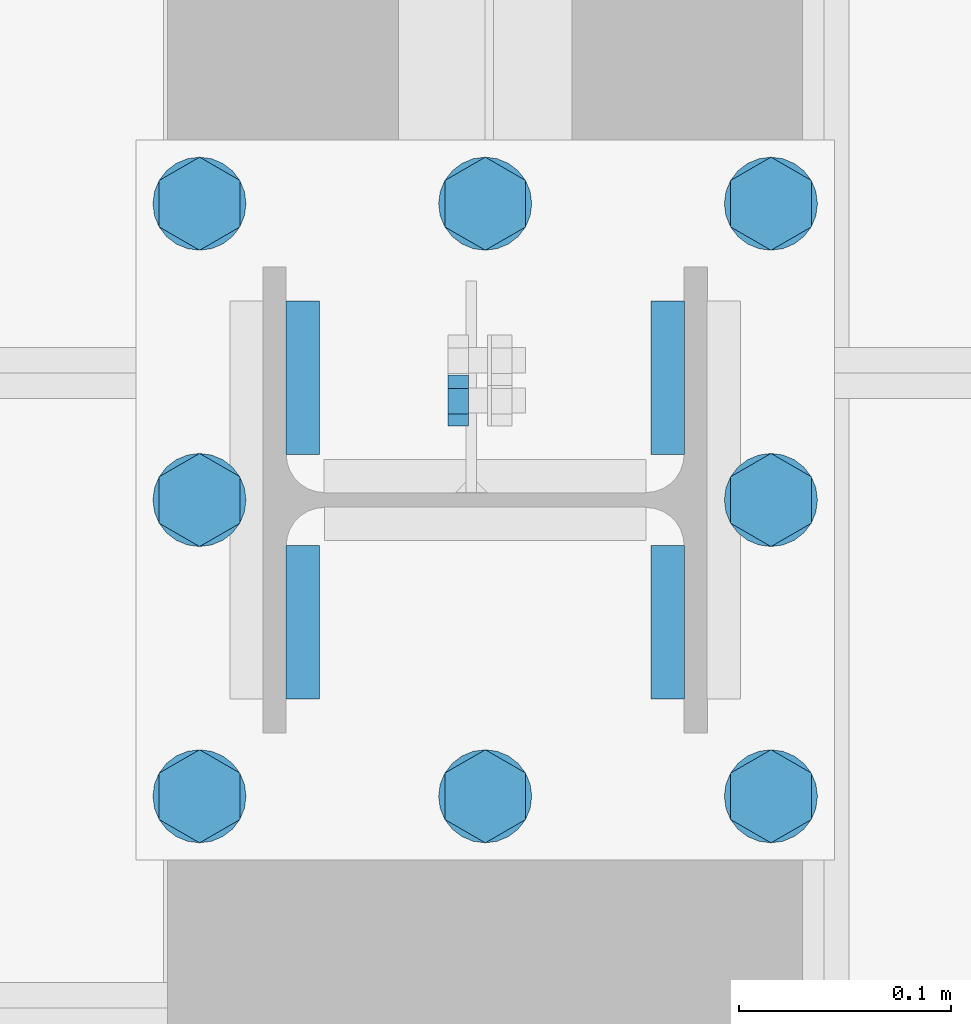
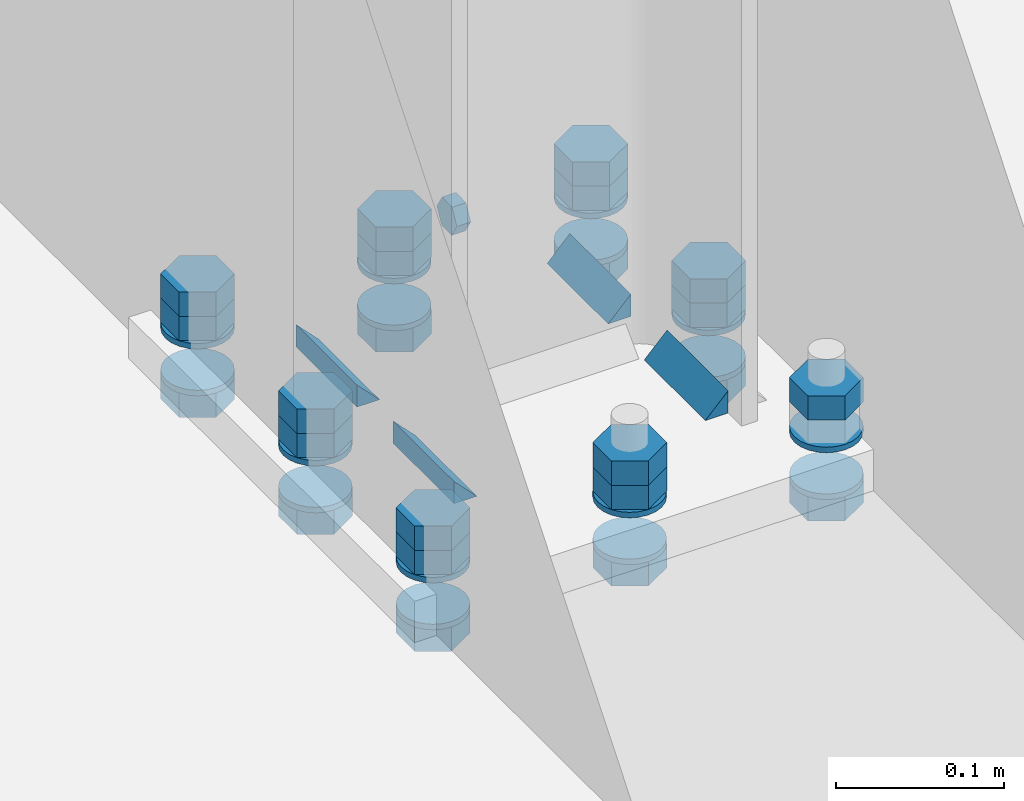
# One storey, part 25 of 29: 40 mechanical fasteners, 8 fasteners.
"""IFC4 building model written with IfcOpenShell, lengths in metres."""

from ifc_helpers import new_model, si_unit, frame, origin_with_axes, place, context, project, spatial, polyline, outline, extrude, type_object, element, save


model = new_model("IFC4")

# Units and contexts
model_context = context("Model", 3, precision=1e-05, world=origin_with_axes())
ifc_project = project(units=[si_unit("LENGTHUNIT", "METRE"), si_unit("AREAUNIT", "SQUARE_METRE"), si_unit("VOLUMEUNIT", "CUBIC_METRE"), si_unit("MASSUNIT", "GRAM", prefix="KILO"), si_unit("TIMEUNIT", "SECOND"), si_unit("PLANEANGLEUNIT", "RADIAN"), si_unit("SOLIDANGLEUNIT", "STERADIAN"), si_unit("THERMODYNAMICTEMPERATUREUNIT", "DEGREE_CELSIUS")], contexts=[model_context])

# Site, building, storey
placement_1 = place(None, origin_with_axes())
site = spatial("IfcSite", under=ifc_project, at=placement_1, Name="Italia", CompositionType="ELEMENT")
building = spatial("IfcBuilding", under=site, at=placement_1, Name="Capannone", CompositionType="ELEMENT")
storey = spatial("IfcBuildingStorey", under=building, at=placement_1, Name="Storey 0", CompositionType="ELEMENT", Elevation=0.0)

# Fasteners
fastener_type_1 = type_object("IfcFastenerType", Name="Collegamenti 0001_0101 0002_0102 0003_0103 0004_0104 0005_0105 0006_0106 0007_0107 0008_0108 0009_0109 0010_0110 0011_0111 0012_0112", PredefinedType="WELD")
placement_2 = place(placement_1, origin_with_axes())
fastener_1_placement = place(placement_2, origin_with_axes())
element("IfcFastener", 1, at=fastener_1_placement, inside=storey, type_object=fastener_type_1, Name="Collegamenti 0001_0101 0002_0102 0003_0103 0004_0104 0005_0105 0006_0106 0007_0107 0008_0108 0009_0109 0010_0110 0011_0111 0012_0112", context=model_context, shape_type="SweptSolid", body=[
    extrude(outline(polyline([(0.0, 0.0), (0.0156889, 0.0161734), (0.0156889, 0.0), (0.0, 0.0)])), frame((13.9216, 12.0215, 0.02995), z_axis=(0.0, 1.0, 0.0), x_axis=(-1.0, 0.0, 0.0)), (0.0, 0.0, 1.0), 0.0726004),
])
fastener_type_2 = type_object("IfcFastenerType", Name="Collegamenti 0001_0101 0002_0102 0003_0103 0004_0104 0005_0105 0006_0106 0007_0107 0008_0108 0009_0109 0010_0110 0011_0111 0012_0112", PredefinedType="WELD")
fastener_2_placement = place(placement_2, origin_with_axes())
element("IfcFastener", 2, at=fastener_2_placement, inside=storey, type_object=fastener_type_2, Name="Collegamenti 0001_0101 0002_0102 0003_0103 0004_0104 0005_0105 0006_0106 0007_0107 0008_0108 0009_0109 0010_0110 0011_0111 0012_0112", context=model_context, shape_type="SweptSolid", body=[
    extrude(outline(polyline([(0.0, 0.0), (0.0156889, 0.0161734), (0.0156889, 0.0), (0.0, 0.0)])), frame((14.0784, 12.0941, 0.02995), z_axis=(0.0, -1.0, 0.0), x_axis=(1.0, 0.0, 0.0)), (0.0, 0.0, 1.0), 0.0726004),
])
fastener_type_3 = type_object("IfcFastenerType", Name="Collegamenti 0001_0101 0002_0102 0003_0103 0004_0104 0005_0105 0006_0106 0007_0107 0008_0108 0009_0109 0010_0110 0011_0111 0012_0112", PredefinedType="WELD")
fastener_3_placement = place(placement_2, origin_with_axes())
element("IfcFastener", 3, at=fastener_3_placement, inside=storey, type_object=fastener_type_3, Name="Collegamenti 0001_0101 0002_0102 0003_0103 0004_0104 0005_0105 0006_0106 0007_0107 0008_0108 0009_0109 0010_0110 0011_0111 0012_0112", context=model_context, shape_type="SweptSolid", body=[
    extrude(outline(polyline([(0.0, 0.0), (0.0156889, 0.0161734), (0.0156889, 0.0), (0.0, 0.0)])), frame((14.0784, 11.9785, 0.02995), z_axis=(0.0, -1.0, 0.0), x_axis=(1.0, 0.0, 0.0)), (0.0, 0.0, 1.0), 0.0726004),
])
fastener_type_4 = type_object("IfcFastenerType", Name="Collegamenti 0001_0101 0002_0102 0003_0103 0004_0104 0005_0105 0006_0106 0007_0107 0008_0108 0009_0109 0010_0110 0011_0111 0012_0112", PredefinedType="WELD")
fastener_4_placement = place(placement_2, origin_with_axes())
element("IfcFastener", 4, at=fastener_4_placement, inside=storey, type_object=fastener_type_4, Name="Collegamenti 0001_0101 0002_0102 0003_0103 0004_0104 0005_0105 0006_0106 0007_0107 0008_0108 0009_0109 0010_0110 0011_0111 0012_0112", context=model_context, shape_type="SweptSolid", body=[
    extrude(outline(polyline([(0.0, 0.0), (0.0156889, 0.0161734), (0.0156889, 0.0), (0.0, 0.0)])), frame((13.9216, 11.9059, 0.02995), z_axis=(0.0, 1.0, 0.0), x_axis=(-1.0, 0.0, 0.0)), (0.0, 0.0, 1.0), 0.0726004),
])
fastener_type_5 = type_object("IfcFastenerType", Name="Collegamenti 0001_0101 0002_0102 0003_0103 0004_0104 0005_0105 0006_0106 0007_0107 0008_0108 0009_0109 0010_0110 0011_0111 0012_0112", PredefinedType="WELD")
fastener_5_placement = place(placement_2, origin_with_axes())
element("IfcFastener", 5, at=fastener_5_placement, inside=storey, type_object=fastener_type_5, Name="Collegamenti 0001_0101 0002_0102 0003_0103 0004_0104 0005_0105 0006_0106 0007_0107 0008_0108 0009_0109 0010_0110 0011_0111 0012_0112", context=model_context, shape_type="SweptSolid", body=[
    extrude(outline(polyline([(0.0, 0.0), (0.0156889, 0.0161734), (0.0156889, 0.0), (0.0, 0.0)])), frame((13.9216, 12.0215, 0.02995), z_axis=(0.0, 1.0, 0.0), x_axis=(-1.0, 0.0, 0.0)), (0.0, 0.0, 1.0), 0.0726004),
])
fastener_type_6 = type_object("IfcFastenerType", Name="Collegamenti 0001_0101 0002_0102 0003_0103 0004_0104 0005_0105 0006_0106 0007_0107 0008_0108 0009_0109 0010_0110 0011_0111 0012_0112", PredefinedType="WELD")
fastener_6_placement = place(placement_2, origin_with_axes())
element("IfcFastener", 6, at=fastener_6_placement, inside=storey, type_object=fastener_type_6, Name="Collegamenti 0001_0101 0002_0102 0003_0103 0004_0104 0005_0105 0006_0106 0007_0107 0008_0108 0009_0109 0010_0110 0011_0111 0012_0112", context=model_context, shape_type="SweptSolid", body=[
    extrude(outline(polyline([(0.0, 0.0), (0.0156889, 0.0161734), (0.0156889, 0.0), (0.0, 0.0)])), frame((14.0784, 12.0941, 0.02995), z_axis=(0.0, -1.0, 0.0), x_axis=(1.0, 0.0, 0.0)), (0.0, 0.0, 1.0), 0.0726004),
])
fastener_type_7 = type_object("IfcFastenerType", Name="Collegamenti 0001_0101 0002_0102 0003_0103 0004_0104 0005_0105 0006_0106 0007_0107 0008_0108 0009_0109 0010_0110 0011_0111 0012_0112", PredefinedType="WELD")
fastener_7_placement = place(placement_2, origin_with_axes())
element("IfcFastener", 7, at=fastener_7_placement, inside=storey, type_object=fastener_type_7, Name="Collegamenti 0001_0101 0002_0102 0003_0103 0004_0104 0005_0105 0006_0106 0007_0107 0008_0108 0009_0109 0010_0110 0011_0111 0012_0112", context=model_context, shape_type="SweptSolid", body=[
    extrude(outline(polyline([(0.0, 0.0), (0.0156889, 0.0161734), (0.0156889, 0.0), (0.0, 0.0)])), frame((14.0784, 11.9785, 0.02995), z_axis=(0.0, -1.0, 0.0), x_axis=(1.0, 0.0, 0.0)), (0.0, 0.0, 1.0), 0.0726004),
])
fastener_type_8 = type_object("IfcFastenerType", Name="Collegamenti 0001_0101 0002_0102 0003_0103 0004_0104 0005_0105 0006_0106 0007_0107 0008_0108 0009_0109 0010_0110 0011_0111 0012_0112", PredefinedType="WELD")
fastener_8_placement = place(placement_2, origin_with_axes())
element("IfcFastener", 8, at=fastener_8_placement, inside=storey, type_object=fastener_type_8, Name="Collegamenti 0001_0101 0002_0102 0003_0103 0004_0104 0005_0105 0006_0106 0007_0107 0008_0108 0009_0109 0010_0110 0011_0111 0012_0112", context=model_context, shape_type="SweptSolid", body=[
    extrude(outline(polyline([(0.0, 0.0), (0.0156889, 0.0161734), (0.0156889, 0.0), (0.0, 0.0)])), frame((13.9216, 11.9059, 0.02995), z_axis=(0.0, 1.0, 0.0), x_axis=(-1.0, 0.0, 0.0)), (0.0, 0.0, 1.0), 0.0726004),
])

# Mechanical fasteners
mechanical_fastener_type_1 = type_object("IfcMechanicalFastenerType", Name="Collegamenti 0001_0101 0002_0102 0003_0103 0004_0104 0005_0105 0006_0106 0007_0107 0008_0108 0009_0109 0010_0110 0011_0111 0012_0112", PredefinedType="BOLT")
mechanical_fastener_1_placement = place(placement_2, origin_with_axes())
element("IfcMechanicalFastener", 9, at=mechanical_fastener_1_placement, inside=storey, type_object=mechanical_fastener_type_1, Name="Collegamenti 0001_0101 0002_0102 0003_0103 0004_0104 0005_0105 0006_0106 0007_0107 0008_0108 0009_0109 0010_0110 0011_0111 0012_0112", NominalDiameter=0.0219998, context=model_context, shape_type="SweptSolid", body=[
    extrude(outline(polyline([(0.0, 0.0), (-0.0220003, 0.0), (-0.033, 0.0190525), (-0.0220003, 0.038105), (0.0, 0.038105), (0.0109997, 0.0190525), (0.0, 0.0)])), frame((14.1541, 11.871, 0.0516), z_axis=(0.0, 0.0, 1.0), x_axis=(0.0, 1.0, 0.0)), (0.0, 0.0, 1.0), 0.0176),
])
mechanical_fastener_type_2 = type_object("IfcMechanicalFastenerType", Name="Collegamenti 0001_0101 0002_0102 0003_0103 0004_0104 0005_0105 0006_0106 0007_0107 0008_0108 0009_0109 0010_0110 0011_0111 0012_0112", PredefinedType="BOLT")
mechanical_fastener_2_placement = place(placement_2, origin_with_axes())
element("IfcMechanicalFastener", 10, at=mechanical_fastener_2_placement, inside=storey, type_object=mechanical_fastener_type_2, Name="Collegamenti 0001_0101 0002_0102 0003_0103 0004_0104 0005_0105 0006_0106 0007_0107 0008_0108 0009_0109 0010_0110 0011_0111 0012_0112", NominalDiameter=0.0219998, context=model_context, shape_type="SweptSolid", body=[
    extrude(outline(polyline([(0.0, 0.0), (-0.0220003, 0.0), (-0.033, 0.0190525), (-0.0220003, 0.038105), (0.0, 0.038105), (0.0109997, 0.0190525), (0.0, 0.0)])), frame((14.1541, 11.871, -0.0216), z_axis=(0.0, 0.0, 1.0), x_axis=(0.0, 1.0, 0.0)), (0.0, 0.0, 1.0), 0.0176),
])
mechanical_fastener_type_3 = type_object("IfcMechanicalFastenerType", Name="Collegamenti 0001_0101 0002_0102 0003_0103 0004_0104 0005_0105 0006_0106 0007_0107 0008_0108 0009_0109 0010_0110 0011_0111 0012_0112", PredefinedType="BOLT")
mechanical_fastener_3_placement = place(placement_2, origin_with_axes())
element("IfcMechanicalFastener", 11, at=mechanical_fastener_3_placement, inside=storey, type_object=mechanical_fastener_type_3, Name="Collegamenti 0001_0101 0002_0102 0003_0103 0004_0104 0005_0105 0006_0106 0007_0107 0008_0108 0009_0109 0010_0110 0011_0111 0012_0112", NominalDiameter=0.044, context=model_context, shape_type="SweptSolid", body=[
    extrude(outline(polyline([(0.0, 0.0), (-0.000749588, -0.00569439), (-0.00294781, -0.0109997), (-0.00644398, -0.0155563), (-0.0110006, -0.0190525), (-0.0163059, -0.0212507), (-0.0220003, -0.0220003), (-0.0276947, -0.0212507), (-0.033, -0.0190525), (-0.0375566, -0.0155563), (-0.0410528, -0.0109997), (-0.043251, -0.00569439), (-0.0440006, 0.0), (-0.043251, 0.00569439), (-0.0410528, 0.0109997), (-0.0375566, 0.0155563), (-0.033, 0.0190525), (-0.0276947, 0.0212507), (-0.0220003, 0.0220003), (-0.0163059, 0.0212507), (-0.0110006, 0.0190525), (-0.00644398, 0.0155563), (-0.00294781, 0.0109997), (-0.000749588, 0.00569439), (0.0, 0.0)])), frame((14.135, 11.882, 0.03), z_axis=(0.0, 0.0, 1.0), x_axis=(0.0, 1.0, 0.0)), (0.0, 0.0, 1.0), 0.004),
])
mechanical_fastener_type_4 = type_object("IfcMechanicalFastenerType", Name="Collegamenti 0001_0101 0002_0102 0003_0103 0004_0104 0005_0105 0006_0106 0007_0107 0008_0108 0009_0109 0010_0110 0011_0111 0012_0112", PredefinedType="BOLT")
mechanical_fastener_4_placement = place(placement_2, origin_with_axes())
element("IfcMechanicalFastener", 12, at=mechanical_fastener_4_placement, inside=storey, type_object=mechanical_fastener_type_4, Name="Collegamenti 0001_0101 0002_0102 0003_0103 0004_0104 0005_0105 0006_0106 0007_0107 0008_0108 0009_0109 0010_0110 0011_0111 0012_0112", NominalDiameter=0.044, context=model_context, shape_type="SweptSolid", body=[
    extrude(outline(polyline([(0.0, 0.0), (-0.000749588, -0.00569439), (-0.00294781, -0.0109997), (-0.00644398, -0.0155563), (-0.0110006, -0.0190525), (-0.0163059, -0.0212507), (-0.0220003, -0.0220003), (-0.0276947, -0.0212507), (-0.033, -0.0190525), (-0.0375566, -0.0155563), (-0.0410528, -0.0109997), (-0.043251, -0.00569439), (-0.0440006, 0.0), (-0.043251, 0.00569439), (-0.0410528, 0.0109997), (-0.0375566, 0.0155563), (-0.033, 0.0190525), (-0.0276947, 0.0212507), (-0.0220003, 0.0220003), (-0.0163059, 0.0212507), (-0.0110006, 0.0190525), (-0.00644398, 0.0155563), (-0.00294781, 0.0109997), (-0.000749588, 0.00569439), (0.0, 0.0)])), frame((14.135, 11.882, -0.004), z_axis=(0.0, 0.0, 1.0), x_axis=(0.0, 1.0, 0.0)), (0.0, 0.0, 1.0), 0.004),
])
mechanical_fastener_type_5 = type_object("IfcMechanicalFastenerType", Name="Collegamenti 0001_0101 0002_0102 0003_0103 0004_0104 0005_0105 0006_0106 0007_0107 0008_0108 0009_0109 0010_0110 0011_0111 0012_0112", PredefinedType="BOLT")
mechanical_fastener_5_placement = place(placement_2, origin_with_axes())
element("IfcMechanicalFastener", 13, at=mechanical_fastener_5_placement, inside=storey, type_object=mechanical_fastener_type_5, Name="Collegamenti 0001_0101 0002_0102 0003_0103 0004_0104 0005_0105 0006_0106 0007_0107 0008_0108 0009_0109 0010_0110 0011_0111 0012_0112", NominalDiameter=0.0219994, context=model_context, shape_type="SweptSolid", body=[
    extrude(outline(polyline([(0.0, 0.0), (-0.0219994, 0.0), (-0.033, 0.0190525), (-0.0219994, 0.038105), (0.0, 0.038105), (0.0110006, 0.0190525), (0.0, 0.0)])), frame((14.1541, 12.011, 0.034), z_axis=(0.0, 0.0, 1.0), x_axis=(0.0, 1.0, 0.0)), (0.0, 0.0, 1.0), 0.0176),
])
mechanical_fastener_type_6 = type_object("IfcMechanicalFastenerType", Name="Collegamenti 0001_0101 0002_0102 0003_0103 0004_0104 0005_0105 0006_0106 0007_0107 0008_0108 0009_0109 0010_0110 0011_0111 0012_0112", PredefinedType="BOLT")
mechanical_fastener_6_placement = place(placement_2, origin_with_axes())
element("IfcMechanicalFastener", 14, at=mechanical_fastener_6_placement, inside=storey, type_object=mechanical_fastener_type_6, Name="Collegamenti 0001_0101 0002_0102 0003_0103 0004_0104 0005_0105 0006_0106 0007_0107 0008_0108 0009_0109 0010_0110 0011_0111 0012_0112", NominalDiameter=0.0219994, context=model_context, shape_type="SweptSolid", body=[
    extrude(outline(polyline([(0.0, 0.0), (-0.0219994, 0.0), (-0.033, 0.0190525), (-0.0219994, 0.038105), (0.0, 0.038105), (0.0110006, 0.0190525), (0.0, 0.0)])), frame((14.1541, 12.011, 0.0516), z_axis=(0.0, 0.0, 1.0), x_axis=(0.0, 1.0, 0.0)), (0.0, 0.0, 1.0), 0.0176),
])
mechanical_fastener_type_7 = type_object("IfcMechanicalFastenerType", Name="Collegamenti 0001_0101 0002_0102 0003_0103 0004_0104 0005_0105 0006_0106 0007_0107 0008_0108 0009_0109 0010_0110 0011_0111 0012_0112", PredefinedType="BOLT")
mechanical_fastener_7_placement = place(placement_2, origin_with_axes())
element("IfcMechanicalFastener", 15, at=mechanical_fastener_7_placement, inside=storey, type_object=mechanical_fastener_type_7, Name="Collegamenti 0001_0101 0002_0102 0003_0103 0004_0104 0005_0105 0006_0106 0007_0107 0008_0108 0009_0109 0010_0110 0011_0111 0012_0112", NominalDiameter=0.0219994, context=model_context, shape_type="SweptSolid", body=[
    extrude(outline(polyline([(0.0, 0.0), (-0.0219994, 0.0), (-0.033, 0.0190525), (-0.0219994, 0.038105), (0.0, 0.038105), (0.0110006, 0.0190525), (0.0, 0.0)])), frame((14.1541, 12.011, -0.0216), z_axis=(0.0, 0.0, 1.0), x_axis=(0.0, 1.0, 0.0)), (0.0, 0.0, 1.0), 0.0176),
])
mechanical_fastener_type_8 = type_object("IfcMechanicalFastenerType", Name="Collegamenti 0001_0101 0002_0102 0003_0103 0004_0104 0005_0105 0006_0106 0007_0107 0008_0108 0009_0109 0010_0110 0011_0111 0012_0112", PredefinedType="BOLT")
mechanical_fastener_8_placement = place(placement_2, origin_with_axes())
element("IfcMechanicalFastener", 16, at=mechanical_fastener_8_placement, inside=storey, type_object=mechanical_fastener_type_8, Name="Collegamenti 0001_0101 0002_0102 0003_0103 0004_0104 0005_0105 0006_0106 0007_0107 0008_0108 0009_0109 0010_0110 0011_0111 0012_0112", NominalDiameter=0.044, context=model_context, shape_type="SweptSolid", body=[
    extrude(outline(polyline([(0.0, 0.0), (-0.000749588, -0.00569439), (-0.00294781, -0.0109997), (-0.00644398, -0.0155563), (-0.0110006, -0.0190525), (-0.0163059, -0.0212507), (-0.0220003, -0.0220003), (-0.0276947, -0.0212507), (-0.033, -0.0190525), (-0.0375566, -0.0155563), (-0.0410528, -0.0109997), (-0.043251, -0.00569439), (-0.0440006, 0.0), (-0.043251, 0.00569439), (-0.0410528, 0.0109997), (-0.0375566, 0.0155563), (-0.033, 0.0190525), (-0.0276947, 0.0212507), (-0.0220003, 0.0220003), (-0.0163059, 0.0212507), (-0.0110006, 0.0190525), (-0.00644398, 0.0155563), (-0.00294781, 0.0109997), (-0.000749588, 0.00569439), (0.0, 0.0)])), frame((14.135, 12.022, 0.03), z_axis=(0.0, 0.0, 1.0), x_axis=(0.0, 1.0, 0.0)), (0.0, 0.0, 1.0), 0.004),
])
mechanical_fastener_type_9 = type_object("IfcMechanicalFastenerType", Name="Collegamenti 0001_0101 0002_0102 0003_0103 0004_0104 0005_0105 0006_0106 0007_0107 0008_0108 0009_0109 0010_0110 0011_0111 0012_0112", PredefinedType="BOLT")
mechanical_fastener_9_placement = place(placement_2, origin_with_axes())
element("IfcMechanicalFastener", 17, at=mechanical_fastener_9_placement, inside=storey, type_object=mechanical_fastener_type_9, Name="Collegamenti 0001_0101 0002_0102 0003_0103 0004_0104 0005_0105 0006_0106 0007_0107 0008_0108 0009_0109 0010_0110 0011_0111 0012_0112", NominalDiameter=0.044, context=model_context, shape_type="SweptSolid", body=[
    extrude(outline(polyline([(0.0, 0.0), (-0.000749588, -0.00569439), (-0.00294781, -0.0109997), (-0.00644398, -0.0155563), (-0.0110006, -0.0190525), (-0.0163059, -0.0212507), (-0.0220003, -0.0220003), (-0.0276947, -0.0212507), (-0.033, -0.0190525), (-0.0375566, -0.0155563), (-0.0410528, -0.0109997), (-0.043251, -0.00569439), (-0.0440006, 0.0), (-0.043251, 0.00569439), (-0.0410528, 0.0109997), (-0.0375566, 0.0155563), (-0.033, 0.0190525), (-0.0276947, 0.0212507), (-0.0220003, 0.0220003), (-0.0163059, 0.0212507), (-0.0110006, 0.0190525), (-0.00644398, 0.0155563), (-0.00294781, 0.0109997), (-0.000749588, 0.00569439), (0.0, 0.0)])), frame((14.135, 12.022, -0.004), z_axis=(0.0, 0.0, 1.0), x_axis=(0.0, 1.0, 0.0)), (0.0, 0.0, 1.0), 0.004),
])
mechanical_fastener_type_10 = type_object("IfcMechanicalFastenerType", Name="Collegamenti 0001_0101 0002_0102 0003_0103 0004_0104 0005_0105 0006_0106 0007_0107 0008_0108 0009_0109 0010_0110 0011_0111 0012_0112", PredefinedType="BOLT")
mechanical_fastener_10_placement = place(placement_2, origin_with_axes())
element("IfcMechanicalFastener", 18, at=mechanical_fastener_10_placement, inside=storey, type_object=mechanical_fastener_type_10, Name="Collegamenti 0001_0101 0002_0102 0003_0103 0004_0104 0005_0105 0006_0106 0007_0107 0008_0108 0009_0109 0010_0110 0011_0111 0012_0112", NominalDiameter=0.0219998, context=model_context, shape_type="SweptSolid", body=[
    extrude(outline(polyline([(0.0, 0.0), (-0.0220003, 0.0), (-0.033, 0.0190525), (-0.0220003, 0.038105), (0.0, 0.038105), (0.0109997, 0.0190525), (0.0, 0.0)])), frame((14.1541, 12.151, 0.034), z_axis=(0.0, 0.0, 1.0), x_axis=(0.0, 1.0, 0.0)), (0.0, 0.0, 1.0), 0.0176),
])
mechanical_fastener_type_11 = type_object("IfcMechanicalFastenerType", Name="Collegamenti 0001_0101 0002_0102 0003_0103 0004_0104 0005_0105 0006_0106 0007_0107 0008_0108 0009_0109 0010_0110 0011_0111 0012_0112", PredefinedType="BOLT")
mechanical_fastener_11_placement = place(placement_2, origin_with_axes())
element("IfcMechanicalFastener", 19, at=mechanical_fastener_11_placement, inside=storey, type_object=mechanical_fastener_type_11, Name="Collegamenti 0001_0101 0002_0102 0003_0103 0004_0104 0005_0105 0006_0106 0007_0107 0008_0108 0009_0109 0010_0110 0011_0111 0012_0112", NominalDiameter=0.0219998, context=model_context, shape_type="SweptSolid", body=[
    extrude(outline(polyline([(0.0, 0.0), (-0.0220003, 0.0), (-0.033, 0.0190525), (-0.0220003, 0.038105), (0.0, 0.038105), (0.0109997, 0.0190525), (0.0, 0.0)])), frame((14.1541, 12.151, 0.0516), z_axis=(0.0, 0.0, 1.0), x_axis=(0.0, 1.0, 0.0)), (0.0, 0.0, 1.0), 0.0176),
])
mechanical_fastener_type_12 = type_object("IfcMechanicalFastenerType", Name="Collegamenti 0001_0101 0002_0102 0003_0103 0004_0104 0005_0105 0006_0106 0007_0107 0008_0108 0009_0109 0010_0110 0011_0111 0012_0112", PredefinedType="BOLT")
mechanical_fastener_12_placement = place(placement_2, origin_with_axes())
element("IfcMechanicalFastener", 20, at=mechanical_fastener_12_placement, inside=storey, type_object=mechanical_fastener_type_12, Name="Collegamenti 0001_0101 0002_0102 0003_0103 0004_0104 0005_0105 0006_0106 0007_0107 0008_0108 0009_0109 0010_0110 0011_0111 0012_0112", NominalDiameter=0.0219998, context=model_context, shape_type="SweptSolid", body=[
    extrude(outline(polyline([(0.0, 0.0), (-0.0220003, 0.0), (-0.033, 0.0190525), (-0.0220003, 0.038105), (0.0, 0.038105), (0.0109997, 0.0190525), (0.0, 0.0)])), frame((14.1541, 12.151, -0.0216), z_axis=(0.0, 0.0, 1.0), x_axis=(0.0, 1.0, 0.0)), (0.0, 0.0, 1.0), 0.0176),
])
mechanical_fastener_type_13 = type_object("IfcMechanicalFastenerType", Name="Collegamenti 0001_0101 0002_0102 0003_0103 0004_0104 0005_0105 0006_0106 0007_0107 0008_0108 0009_0109 0010_0110 0011_0111 0012_0112", PredefinedType="BOLT")
mechanical_fastener_13_placement = place(placement_2, origin_with_axes())
element("IfcMechanicalFastener", 21, at=mechanical_fastener_13_placement, inside=storey, type_object=mechanical_fastener_type_13, Name="Collegamenti 0001_0101 0002_0102 0003_0103 0004_0104 0005_0105 0006_0106 0007_0107 0008_0108 0009_0109 0010_0110 0011_0111 0012_0112", NominalDiameter=0.044, context=model_context, shape_type="SweptSolid", body=[
    extrude(outline(polyline([(0.0, 0.0), (-0.000749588, -0.00569439), (-0.00294781, -0.0109997), (-0.00644398, -0.0155563), (-0.0110006, -0.0190525), (-0.0163059, -0.0212507), (-0.0220003, -0.0220003), (-0.0276947, -0.0212507), (-0.033, -0.0190525), (-0.0375566, -0.0155563), (-0.0410528, -0.0109997), (-0.043251, -0.00569439), (-0.0440006, 0.0), (-0.043251, 0.00569439), (-0.0410528, 0.0109997), (-0.0375566, 0.0155563), (-0.033, 0.0190525), (-0.0276947, 0.0212507), (-0.0220003, 0.0220003), (-0.0163059, 0.0212507), (-0.0110006, 0.0190525), (-0.00644398, 0.0155563), (-0.00294781, 0.0109997), (-0.000749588, 0.00569439), (0.0, 0.0)])), frame((14.135, 12.162, 0.03), z_axis=(0.0, 0.0, 1.0), x_axis=(0.0, 1.0, 0.0)), (0.0, 0.0, 1.0), 0.004),
])
mechanical_fastener_type_14 = type_object("IfcMechanicalFastenerType", Name="Collegamenti 0001_0101 0002_0102 0003_0103 0004_0104 0005_0105 0006_0106 0007_0107 0008_0108 0009_0109 0010_0110 0011_0111 0012_0112", PredefinedType="BOLT")
mechanical_fastener_14_placement = place(placement_2, origin_with_axes())
element("IfcMechanicalFastener", 22, at=mechanical_fastener_14_placement, inside=storey, type_object=mechanical_fastener_type_14, Name="Collegamenti 0001_0101 0002_0102 0003_0103 0004_0104 0005_0105 0006_0106 0007_0107 0008_0108 0009_0109 0010_0110 0011_0111 0012_0112", NominalDiameter=0.044, context=model_context, shape_type="SweptSolid", body=[
    extrude(outline(polyline([(0.0, 0.0), (-0.000749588, -0.00569439), (-0.00294781, -0.0109997), (-0.00644398, -0.0155563), (-0.0110006, -0.0190525), (-0.0163059, -0.0212507), (-0.0220003, -0.0220003), (-0.0276947, -0.0212507), (-0.033, -0.0190525), (-0.0375566, -0.0155563), (-0.0410528, -0.0109997), (-0.043251, -0.00569439), (-0.0440006, 0.0), (-0.043251, 0.00569439), (-0.0410528, 0.0109997), (-0.0375566, 0.0155563), (-0.033, 0.0190525), (-0.0276947, 0.0212507), (-0.0220003, 0.0220003), (-0.0163059, 0.0212507), (-0.0110006, 0.0190525), (-0.00644398, 0.0155563), (-0.00294781, 0.0109997), (-0.000749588, 0.00569439), (0.0, 0.0)])), frame((14.135, 12.162, -0.004), z_axis=(0.0, 0.0, 1.0), x_axis=(0.0, 1.0, 0.0)), (0.0, 0.0, 1.0), 0.004),
])
mechanical_fastener_type_15 = type_object("IfcMechanicalFastenerType", Name="Collegamenti 0001_0101 0002_0102 0003_0103 0004_0104 0005_0105 0006_0106 0007_0107 0008_0108 0009_0109 0010_0110 0011_0111 0012_0112", PredefinedType="BOLT")
mechanical_fastener_15_placement = place(placement_2, origin_with_axes())
element("IfcMechanicalFastener", 23, at=mechanical_fastener_15_placement, inside=storey, type_object=mechanical_fastener_type_15, Name="Collegamenti 0001_0101 0002_0102 0003_0103 0004_0104 0005_0105 0006_0106 0007_0107 0008_0108 0009_0109 0010_0110 0011_0111 0012_0112", NominalDiameter=0.0219998, context=model_context, shape_type="SweptSolid", body=[
    extrude(outline(polyline([(0.0, 0.0), (-0.0220003, 0.0), (-0.033, 0.0190525), (-0.0220003, 0.038105), (0.0, 0.038105), (0.0109997, 0.0190525), (0.0, 0.0)])), frame((14.0191, 11.871, 0.034), z_axis=(0.0, 0.0, 1.0), x_axis=(0.0, 1.0, 0.0)), (0.0, 0.0, 1.0), 0.0176),
])
mechanical_fastener_type_16 = type_object("IfcMechanicalFastenerType", Name="Collegamenti 0001_0101 0002_0102 0003_0103 0004_0104 0005_0105 0006_0106 0007_0107 0008_0108 0009_0109 0010_0110 0011_0111 0012_0112", PredefinedType="BOLT")
mechanical_fastener_16_placement = place(placement_2, origin_with_axes())
element("IfcMechanicalFastener", 24, at=mechanical_fastener_16_placement, inside=storey, type_object=mechanical_fastener_type_16, Name="Collegamenti 0001_0101 0002_0102 0003_0103 0004_0104 0005_0105 0006_0106 0007_0107 0008_0108 0009_0109 0010_0110 0011_0111 0012_0112", NominalDiameter=0.0219998, context=model_context, shape_type="SweptSolid", body=[
    extrude(outline(polyline([(0.0, 0.0), (-0.0220003, 0.0), (-0.033, 0.0190525), (-0.0220003, 0.038105), (0.0, 0.038105), (0.0109997, 0.0190525), (0.0, 0.0)])), frame((14.0191, 11.871, 0.0516), z_axis=(0.0, 0.0, 1.0), x_axis=(0.0, 1.0, 0.0)), (0.0, 0.0, 1.0), 0.0176),
])
mechanical_fastener_type_17 = type_object("IfcMechanicalFastenerType", Name="Collegamenti 0001_0101 0002_0102 0003_0103 0004_0104 0005_0105 0006_0106 0007_0107 0008_0108 0009_0109 0010_0110 0011_0111 0012_0112", PredefinedType="BOLT")
mechanical_fastener_17_placement = place(placement_2, origin_with_axes())
element("IfcMechanicalFastener", 25, at=mechanical_fastener_17_placement, inside=storey, type_object=mechanical_fastener_type_17, Name="Collegamenti 0001_0101 0002_0102 0003_0103 0004_0104 0005_0105 0006_0106 0007_0107 0008_0108 0009_0109 0010_0110 0011_0111 0012_0112", NominalDiameter=0.0219998, context=model_context, shape_type="SweptSolid", body=[
    extrude(outline(polyline([(0.0, 0.0), (-0.0220003, 0.0), (-0.033, 0.0190525), (-0.0220003, 0.038105), (0.0, 0.038105), (0.0109997, 0.0190525), (0.0, 0.0)])), frame((14.0191, 11.871, -0.0216), z_axis=(0.0, 0.0, 1.0), x_axis=(0.0, 1.0, 0.0)), (0.0, 0.0, 1.0), 0.0176),
])
mechanical_fastener_type_18 = type_object("IfcMechanicalFastenerType", Name="Collegamenti 0001_0101 0002_0102 0003_0103 0004_0104 0005_0105 0006_0106 0007_0107 0008_0108 0009_0109 0010_0110 0011_0111 0012_0112", PredefinedType="BOLT")
mechanical_fastener_18_placement = place(placement_2, origin_with_axes())
element("IfcMechanicalFastener", 26, at=mechanical_fastener_18_placement, inside=storey, type_object=mechanical_fastener_type_18, Name="Collegamenti 0001_0101 0002_0102 0003_0103 0004_0104 0005_0105 0006_0106 0007_0107 0008_0108 0009_0109 0010_0110 0011_0111 0012_0112", NominalDiameter=0.044, context=model_context, shape_type="SweptSolid", body=[
    extrude(outline(polyline([(0.0, 0.0), (-0.000749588, -0.00569439), (-0.00294781, -0.0109997), (-0.00644398, -0.0155563), (-0.0110006, -0.0190525), (-0.0163059, -0.0212507), (-0.0220003, -0.0220003), (-0.0276947, -0.0212507), (-0.033, -0.0190525), (-0.0375566, -0.0155563), (-0.0410528, -0.0109997), (-0.043251, -0.00569439), (-0.0440006, 0.0), (-0.043251, 0.00569439), (-0.0410528, 0.0109997), (-0.0375566, 0.0155563), (-0.033, 0.0190525), (-0.0276947, 0.0212507), (-0.0220003, 0.0220003), (-0.0163059, 0.0212507), (-0.0110006, 0.0190525), (-0.00644398, 0.0155563), (-0.00294781, 0.0109997), (-0.000749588, 0.00569439), (0.0, 0.0)])), frame((14.0, 11.882, 0.03), z_axis=(0.0, 0.0, 1.0), x_axis=(0.0, 1.0, 0.0)), (0.0, 0.0, 1.0), 0.004),
])
mechanical_fastener_type_19 = type_object("IfcMechanicalFastenerType", Name="Collegamenti 0001_0101 0002_0102 0003_0103 0004_0104 0005_0105 0006_0106 0007_0107 0008_0108 0009_0109 0010_0110 0011_0111 0012_0112", PredefinedType="BOLT")
mechanical_fastener_19_placement = place(placement_2, origin_with_axes())
element("IfcMechanicalFastener", 27, at=mechanical_fastener_19_placement, inside=storey, type_object=mechanical_fastener_type_19, Name="Collegamenti 0001_0101 0002_0102 0003_0103 0004_0104 0005_0105 0006_0106 0007_0107 0008_0108 0009_0109 0010_0110 0011_0111 0012_0112", NominalDiameter=0.044, context=model_context, shape_type="SweptSolid", body=[
    extrude(outline(polyline([(0.0, 0.0), (-0.000749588, -0.00569439), (-0.00294781, -0.0109997), (-0.00644398, -0.0155563), (-0.0110006, -0.0190525), (-0.0163059, -0.0212507), (-0.0220003, -0.0220003), (-0.0276947, -0.0212507), (-0.033, -0.0190525), (-0.0375566, -0.0155563), (-0.0410528, -0.0109997), (-0.043251, -0.00569439), (-0.0440006, 0.0), (-0.043251, 0.00569439), (-0.0410528, 0.0109997), (-0.0375566, 0.0155563), (-0.033, 0.0190525), (-0.0276947, 0.0212507), (-0.0220003, 0.0220003), (-0.0163059, 0.0212507), (-0.0110006, 0.0190525), (-0.00644398, 0.0155563), (-0.00294781, 0.0109997), (-0.000749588, 0.00569439), (0.0, 0.0)])), frame((14.0, 11.882, -0.004), z_axis=(0.0, 0.0, 1.0), x_axis=(0.0, 1.0, 0.0)), (0.0, 0.0, 1.0), 0.004),
])
mechanical_fastener_type_20 = type_object("IfcMechanicalFastenerType", Name="Collegamenti 0001_0101 0002_0102 0003_0103 0004_0104 0005_0105 0006_0106 0007_0107 0008_0108 0009_0109 0010_0110 0011_0111 0012_0112", PredefinedType="BOLT")
mechanical_fastener_20_placement = place(placement_2, origin_with_axes())
element("IfcMechanicalFastener", 28, at=mechanical_fastener_20_placement, inside=storey, type_object=mechanical_fastener_type_20, Name="Collegamenti 0001_0101 0002_0102 0003_0103 0004_0104 0005_0105 0006_0106 0007_0107 0008_0108 0009_0109 0010_0110 0011_0111 0012_0112", NominalDiameter=0.0219998, context=model_context, shape_type="SweptSolid", body=[
    extrude(outline(polyline([(0.0, 0.0), (-0.0220003, 0.0), (-0.033, 0.0190525), (-0.0220003, 0.038105), (0.0, 0.038105), (0.0109997, 0.0190525), (0.0, 0.0)])), frame((14.0191, 12.151, 0.034), z_axis=(0.0, 0.0, 1.0), x_axis=(0.0, 1.0, 0.0)), (0.0, 0.0, 1.0), 0.0176),
])
mechanical_fastener_type_21 = type_object("IfcMechanicalFastenerType", Name="Collegamenti 0001_0101 0002_0102 0003_0103 0004_0104 0005_0105 0006_0106 0007_0107 0008_0108 0009_0109 0010_0110 0011_0111 0012_0112", PredefinedType="BOLT")
mechanical_fastener_21_placement = place(placement_2, origin_with_axes())
element("IfcMechanicalFastener", 29, at=mechanical_fastener_21_placement, inside=storey, type_object=mechanical_fastener_type_21, Name="Collegamenti 0001_0101 0002_0102 0003_0103 0004_0104 0005_0105 0006_0106 0007_0107 0008_0108 0009_0109 0010_0110 0011_0111 0012_0112", NominalDiameter=0.0219998, context=model_context, shape_type="SweptSolid", body=[
    extrude(outline(polyline([(0.0, 0.0), (-0.0220003, 0.0), (-0.033, 0.0190525), (-0.0220003, 0.038105), (0.0, 0.038105), (0.0109997, 0.0190525), (0.0, 0.0)])), frame((14.0191, 12.151, 0.0516), z_axis=(0.0, 0.0, 1.0), x_axis=(0.0, 1.0, 0.0)), (0.0, 0.0, 1.0), 0.0176),
])
mechanical_fastener_type_22 = type_object("IfcMechanicalFastenerType", Name="Collegamenti 0001_0101 0002_0102 0003_0103 0004_0104 0005_0105 0006_0106 0007_0107 0008_0108 0009_0109 0010_0110 0011_0111 0012_0112", PredefinedType="BOLT")
mechanical_fastener_22_placement = place(placement_2, origin_with_axes())
element("IfcMechanicalFastener", 30, at=mechanical_fastener_22_placement, inside=storey, type_object=mechanical_fastener_type_22, Name="Collegamenti 0001_0101 0002_0102 0003_0103 0004_0104 0005_0105 0006_0106 0007_0107 0008_0108 0009_0109 0010_0110 0011_0111 0012_0112", NominalDiameter=0.0219998, context=model_context, shape_type="SweptSolid", body=[
    extrude(outline(polyline([(0.0, 0.0), (-0.0220003, 0.0), (-0.033, 0.0190525), (-0.0220003, 0.038105), (0.0, 0.038105), (0.0109997, 0.0190525), (0.0, 0.0)])), frame((14.0191, 12.151, -0.0216), z_axis=(0.0, 0.0, 1.0), x_axis=(0.0, 1.0, 0.0)), (0.0, 0.0, 1.0), 0.0176),
])
mechanical_fastener_type_23 = type_object("IfcMechanicalFastenerType", Name="Collegamenti 0001_0101 0002_0102 0003_0103 0004_0104 0005_0105 0006_0106 0007_0107 0008_0108 0009_0109 0010_0110 0011_0111 0012_0112", PredefinedType="BOLT")
mechanical_fastener_23_placement = place(placement_2, origin_with_axes())
element("IfcMechanicalFastener", 31, at=mechanical_fastener_23_placement, inside=storey, type_object=mechanical_fastener_type_23, Name="Collegamenti 0001_0101 0002_0102 0003_0103 0004_0104 0005_0105 0006_0106 0007_0107 0008_0108 0009_0109 0010_0110 0011_0111 0012_0112", NominalDiameter=0.044, context=model_context, shape_type="SweptSolid", body=[
    extrude(outline(polyline([(0.0, 0.0), (-0.000749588, -0.00569439), (-0.00294781, -0.0109997), (-0.00644398, -0.0155563), (-0.0110006, -0.0190525), (-0.0163059, -0.0212507), (-0.0220003, -0.0220003), (-0.0276947, -0.0212507), (-0.033, -0.0190525), (-0.0375566, -0.0155563), (-0.0410528, -0.0109997), (-0.043251, -0.00569439), (-0.0440006, 0.0), (-0.043251, 0.00569439), (-0.0410528, 0.0109997), (-0.0375566, 0.0155563), (-0.033, 0.0190525), (-0.0276947, 0.0212507), (-0.0220003, 0.0220003), (-0.0163059, 0.0212507), (-0.0110006, 0.0190525), (-0.00644398, 0.0155563), (-0.00294781, 0.0109997), (-0.000749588, 0.00569439), (0.0, 0.0)])), frame((14.0, 12.162, 0.03), z_axis=(0.0, 0.0, 1.0), x_axis=(0.0, 1.0, 0.0)), (0.0, 0.0, 1.0), 0.004),
])
mechanical_fastener_type_24 = type_object("IfcMechanicalFastenerType", Name="Collegamenti 0001_0101 0002_0102 0003_0103 0004_0104 0005_0105 0006_0106 0007_0107 0008_0108 0009_0109 0010_0110 0011_0111 0012_0112", PredefinedType="BOLT")
mechanical_fastener_24_placement = place(placement_2, origin_with_axes())
element("IfcMechanicalFastener", 32, at=mechanical_fastener_24_placement, inside=storey, type_object=mechanical_fastener_type_24, Name="Collegamenti 0001_0101 0002_0102 0003_0103 0004_0104 0005_0105 0006_0106 0007_0107 0008_0108 0009_0109 0010_0110 0011_0111 0012_0112", NominalDiameter=0.044, context=model_context, shape_type="SweptSolid", body=[
    extrude(outline(polyline([(0.0, 0.0), (-0.000749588, -0.00569439), (-0.00294781, -0.0109997), (-0.00644398, -0.0155563), (-0.0110006, -0.0190525), (-0.0163059, -0.0212507), (-0.0220003, -0.0220003), (-0.0276947, -0.0212507), (-0.033, -0.0190525), (-0.0375566, -0.0155563), (-0.0410528, -0.0109997), (-0.043251, -0.00569439), (-0.0440006, 0.0), (-0.043251, 0.00569439), (-0.0410528, 0.0109997), (-0.0375566, 0.0155563), (-0.033, 0.0190525), (-0.0276947, 0.0212507), (-0.0220003, 0.0220003), (-0.0163059, 0.0212507), (-0.0110006, 0.0190525), (-0.00644398, 0.0155563), (-0.00294781, 0.0109997), (-0.000749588, 0.00569439), (0.0, 0.0)])), frame((14.0, 12.162, -0.004), z_axis=(0.0, 0.0, 1.0), x_axis=(0.0, 1.0, 0.0)), (0.0, 0.0, 1.0), 0.004),
])
mechanical_fastener_type_25 = type_object("IfcMechanicalFastenerType", Name="Collegamenti 0001_0101 0002_0102 0003_0103 0004_0104 0005_0105 0006_0106 0007_0107 0008_0108 0009_0109 0010_0110 0011_0111 0012_0112", PredefinedType="BOLT")
mechanical_fastener_25_placement = place(placement_2, origin_with_axes())
element("IfcMechanicalFastener", 33, at=mechanical_fastener_25_placement, inside=storey, type_object=mechanical_fastener_type_25, Name="Collegamenti 0001_0101 0002_0102 0003_0103 0004_0104 0005_0105 0006_0106 0007_0107 0008_0108 0009_0109 0010_0110 0011_0111 0012_0112", NominalDiameter=0.0219998, context=model_context, shape_type="SweptSolid", body=[
    extrude(outline(polyline([(0.0, 0.0), (-0.0220003, 0.0), (-0.033, 0.0190525), (-0.0220003, 0.038105), (0.0, 0.038105), (0.0109997, 0.0190525), (0.0, 0.0)])), frame((13.8841, 11.871, 0.034), z_axis=(0.0, 0.0, 1.0), x_axis=(0.0, 1.0, 0.0)), (0.0, 0.0, 1.0), 0.0176),
])
mechanical_fastener_type_26 = type_object("IfcMechanicalFastenerType", Name="Collegamenti 0001_0101 0002_0102 0003_0103 0004_0104 0005_0105 0006_0106 0007_0107 0008_0108 0009_0109 0010_0110 0011_0111 0012_0112", PredefinedType="BOLT")
mechanical_fastener_26_placement = place(placement_2, origin_with_axes())
element("IfcMechanicalFastener", 34, at=mechanical_fastener_26_placement, inside=storey, type_object=mechanical_fastener_type_26, Name="Collegamenti 0001_0101 0002_0102 0003_0103 0004_0104 0005_0105 0006_0106 0007_0107 0008_0108 0009_0109 0010_0110 0011_0111 0012_0112", NominalDiameter=0.0219998, context=model_context, shape_type="SweptSolid", body=[
    extrude(outline(polyline([(0.0, 0.0), (-0.0220003, 0.0), (-0.033, 0.0190525), (-0.0220003, 0.038105), (0.0, 0.038105), (0.0109997, 0.0190525), (0.0, 0.0)])), frame((13.8841, 11.871, 0.0516), z_axis=(0.0, 0.0, 1.0), x_axis=(0.0, 1.0, 0.0)), (0.0, 0.0, 1.0), 0.0176),
])
mechanical_fastener_type_27 = type_object("IfcMechanicalFastenerType", Name="Collegamenti 0001_0101 0002_0102 0003_0103 0004_0104 0005_0105 0006_0106 0007_0107 0008_0108 0009_0109 0010_0110 0011_0111 0012_0112", PredefinedType="BOLT")
mechanical_fastener_27_placement = place(placement_2, origin_with_axes())
element("IfcMechanicalFastener", 35, at=mechanical_fastener_27_placement, inside=storey, type_object=mechanical_fastener_type_27, Name="Collegamenti 0001_0101 0002_0102 0003_0103 0004_0104 0005_0105 0006_0106 0007_0107 0008_0108 0009_0109 0010_0110 0011_0111 0012_0112", NominalDiameter=0.0219998, context=model_context, shape_type="SweptSolid", body=[
    extrude(outline(polyline([(0.0, 0.0), (-0.0220003, 0.0), (-0.033, 0.0190525), (-0.0220003, 0.038105), (0.0, 0.038105), (0.0109997, 0.0190525), (0.0, 0.0)])), frame((13.8841, 11.871, -0.0216), z_axis=(0.0, 0.0, 1.0), x_axis=(0.0, 1.0, 0.0)), (0.0, 0.0, 1.0), 0.0176),
])
mechanical_fastener_type_28 = type_object("IfcMechanicalFastenerType", Name="Collegamenti 0001_0101 0002_0102 0003_0103 0004_0104 0005_0105 0006_0106 0007_0107 0008_0108 0009_0109 0010_0110 0011_0111 0012_0112", PredefinedType="BOLT")
mechanical_fastener_28_placement = place(placement_2, origin_with_axes())
element("IfcMechanicalFastener", 36, at=mechanical_fastener_28_placement, inside=storey, type_object=mechanical_fastener_type_28, Name="Collegamenti 0001_0101 0002_0102 0003_0103 0004_0104 0005_0105 0006_0106 0007_0107 0008_0108 0009_0109 0010_0110 0011_0111 0012_0112", NominalDiameter=0.044, context=model_context, shape_type="SweptSolid", body=[
    extrude(outline(polyline([(0.0, 0.0), (-0.000749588, -0.00569439), (-0.00294781, -0.0109997), (-0.00644398, -0.0155563), (-0.0110006, -0.0190525), (-0.0163059, -0.0212507), (-0.0220003, -0.0220003), (-0.0276947, -0.0212507), (-0.033, -0.0190525), (-0.0375566, -0.0155563), (-0.0410528, -0.0109997), (-0.043251, -0.00569439), (-0.0440006, 0.0), (-0.043251, 0.00569439), (-0.0410528, 0.0109997), (-0.0375566, 0.0155563), (-0.033, 0.0190525), (-0.0276947, 0.0212507), (-0.0220003, 0.0220003), (-0.0163059, 0.0212507), (-0.0110006, 0.0190525), (-0.00644398, 0.0155563), (-0.00294781, 0.0109997), (-0.000749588, 0.00569439), (0.0, 0.0)])), frame((13.865, 11.882, 0.03), z_axis=(0.0, 0.0, 1.0), x_axis=(0.0, 1.0, 0.0)), (0.0, 0.0, 1.0), 0.004),
])
mechanical_fastener_type_29 = type_object("IfcMechanicalFastenerType", Name="Collegamenti 0001_0101 0002_0102 0003_0103 0004_0104 0005_0105 0006_0106 0007_0107 0008_0108 0009_0109 0010_0110 0011_0111 0012_0112", PredefinedType="BOLT")
mechanical_fastener_29_placement = place(placement_2, origin_with_axes())
element("IfcMechanicalFastener", 37, at=mechanical_fastener_29_placement, inside=storey, type_object=mechanical_fastener_type_29, Name="Collegamenti 0001_0101 0002_0102 0003_0103 0004_0104 0005_0105 0006_0106 0007_0107 0008_0108 0009_0109 0010_0110 0011_0111 0012_0112", NominalDiameter=0.044, context=model_context, shape_type="SweptSolid", body=[
    extrude(outline(polyline([(0.0, 0.0), (-0.000749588, -0.00569439), (-0.00294781, -0.0109997), (-0.00644398, -0.0155563), (-0.0110006, -0.0190525), (-0.0163059, -0.0212507), (-0.0220003, -0.0220003), (-0.0276947, -0.0212507), (-0.033, -0.0190525), (-0.0375566, -0.0155563), (-0.0410528, -0.0109997), (-0.043251, -0.00569439), (-0.0440006, 0.0), (-0.043251, 0.00569439), (-0.0410528, 0.0109997), (-0.0375566, 0.0155563), (-0.033, 0.0190525), (-0.0276947, 0.0212507), (-0.0220003, 0.0220003), (-0.0163059, 0.0212507), (-0.0110006, 0.0190525), (-0.00644398, 0.0155563), (-0.00294781, 0.0109997), (-0.000749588, 0.00569439), (0.0, 0.0)])), frame((13.865, 11.882, -0.004), z_axis=(0.0, 0.0, 1.0), x_axis=(0.0, 1.0, 0.0)), (0.0, 0.0, 1.0), 0.004),
])
mechanical_fastener_type_30 = type_object("IfcMechanicalFastenerType", Name="Collegamenti 0001_0101 0002_0102 0003_0103 0004_0104 0005_0105 0006_0106 0007_0107 0008_0108 0009_0109 0010_0110 0011_0111 0012_0112", PredefinedType="BOLT")
mechanical_fastener_30_placement = place(placement_2, origin_with_axes())
element("IfcMechanicalFastener", 38, at=mechanical_fastener_30_placement, inside=storey, type_object=mechanical_fastener_type_30, Name="Collegamenti 0001_0101 0002_0102 0003_0103 0004_0104 0005_0105 0006_0106 0007_0107 0008_0108 0009_0109 0010_0110 0011_0111 0012_0112", NominalDiameter=0.0219994, context=model_context, shape_type="SweptSolid", body=[
    extrude(outline(polyline([(0.0, 0.0), (-0.0219994, 0.0), (-0.033, 0.0190525), (-0.0219994, 0.038105), (0.0, 0.038105), (0.0110006, 0.0190525), (0.0, 0.0)])), frame((13.8841, 12.011, 0.034), z_axis=(0.0, 0.0, 1.0), x_axis=(0.0, 1.0, 0.0)), (0.0, 0.0, 1.0), 0.0176),
])
mechanical_fastener_type_31 = type_object("IfcMechanicalFastenerType", Name="Collegamenti 0001_0101 0002_0102 0003_0103 0004_0104 0005_0105 0006_0106 0007_0107 0008_0108 0009_0109 0010_0110 0011_0111 0012_0112", PredefinedType="BOLT")
mechanical_fastener_31_placement = place(placement_2, origin_with_axes())
element("IfcMechanicalFastener", 39, at=mechanical_fastener_31_placement, inside=storey, type_object=mechanical_fastener_type_31, Name="Collegamenti 0001_0101 0002_0102 0003_0103 0004_0104 0005_0105 0006_0106 0007_0107 0008_0108 0009_0109 0010_0110 0011_0111 0012_0112", NominalDiameter=0.0219994, context=model_context, shape_type="SweptSolid", body=[
    extrude(outline(polyline([(0.0, 0.0), (-0.0219994, 0.0), (-0.033, 0.0190525), (-0.0219994, 0.038105), (0.0, 0.038105), (0.0110006, 0.0190525), (0.0, 0.0)])), frame((13.8841, 12.011, 0.0516), z_axis=(0.0, 0.0, 1.0), x_axis=(0.0, 1.0, 0.0)), (0.0, 0.0, 1.0), 0.0176),
])
mechanical_fastener_type_32 = type_object("IfcMechanicalFastenerType", Name="Collegamenti 0001_0101 0002_0102 0003_0103 0004_0104 0005_0105 0006_0106 0007_0107 0008_0108 0009_0109 0010_0110 0011_0111 0012_0112", PredefinedType="BOLT")
mechanical_fastener_32_placement = place(placement_2, origin_with_axes())
element("IfcMechanicalFastener", 40, at=mechanical_fastener_32_placement, inside=storey, type_object=mechanical_fastener_type_32, Name="Collegamenti 0001_0101 0002_0102 0003_0103 0004_0104 0005_0105 0006_0106 0007_0107 0008_0108 0009_0109 0010_0110 0011_0111 0012_0112", NominalDiameter=0.0219994, context=model_context, shape_type="SweptSolid", body=[
    extrude(outline(polyline([(0.0, 0.0), (-0.0219994, 0.0), (-0.033, 0.0190525), (-0.0219994, 0.038105), (0.0, 0.038105), (0.0110006, 0.0190525), (0.0, 0.0)])), frame((13.8841, 12.011, -0.0216), z_axis=(0.0, 0.0, 1.0), x_axis=(0.0, 1.0, 0.0)), (0.0, 0.0, 1.0), 0.0176),
])
mechanical_fastener_type_33 = type_object("IfcMechanicalFastenerType", Name="Collegamenti 0001_0101 0002_0102 0003_0103 0004_0104 0005_0105 0006_0106 0007_0107 0008_0108 0009_0109 0010_0110 0011_0111 0012_0112", PredefinedType="BOLT")
mechanical_fastener_33_placement = place(placement_2, origin_with_axes())
element("IfcMechanicalFastener", 41, at=mechanical_fastener_33_placement, inside=storey, type_object=mechanical_fastener_type_33, Name="Collegamenti 0001_0101 0002_0102 0003_0103 0004_0104 0005_0105 0006_0106 0007_0107 0008_0108 0009_0109 0010_0110 0011_0111 0012_0112", NominalDiameter=0.044, context=model_context, shape_type="SweptSolid", body=[
    extrude(outline(polyline([(0.0, 0.0), (-0.000749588, -0.00569439), (-0.00294781, -0.0109997), (-0.00644398, -0.0155563), (-0.0110006, -0.0190525), (-0.0163059, -0.0212507), (-0.0220003, -0.0220003), (-0.0276947, -0.0212507), (-0.033, -0.0190525), (-0.0375566, -0.0155563), (-0.0410528, -0.0109997), (-0.043251, -0.00569439), (-0.0440006, 0.0), (-0.043251, 0.00569439), (-0.0410528, 0.0109997), (-0.0375566, 0.0155563), (-0.033, 0.0190525), (-0.0276947, 0.0212507), (-0.0220003, 0.0220003), (-0.0163059, 0.0212507), (-0.0110006, 0.0190525), (-0.00644398, 0.0155563), (-0.00294781, 0.0109997), (-0.000749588, 0.00569439), (0.0, 0.0)])), frame((13.865, 12.022, 0.03), z_axis=(0.0, 0.0, 1.0), x_axis=(0.0, 1.0, 0.0)), (0.0, 0.0, 1.0), 0.004),
])
mechanical_fastener_type_34 = type_object("IfcMechanicalFastenerType", Name="Collegamenti 0001_0101 0002_0102 0003_0103 0004_0104 0005_0105 0006_0106 0007_0107 0008_0108 0009_0109 0010_0110 0011_0111 0012_0112", PredefinedType="BOLT")
mechanical_fastener_34_placement = place(placement_2, origin_with_axes())
element("IfcMechanicalFastener", 42, at=mechanical_fastener_34_placement, inside=storey, type_object=mechanical_fastener_type_34, Name="Collegamenti 0001_0101 0002_0102 0003_0103 0004_0104 0005_0105 0006_0106 0007_0107 0008_0108 0009_0109 0010_0110 0011_0111 0012_0112", NominalDiameter=0.044, context=model_context, shape_type="SweptSolid", body=[
    extrude(outline(polyline([(0.0, 0.0), (-0.000749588, -0.00569439), (-0.00294781, -0.0109997), (-0.00644398, -0.0155563), (-0.0110006, -0.0190525), (-0.0163059, -0.0212507), (-0.0220003, -0.0220003), (-0.0276947, -0.0212507), (-0.033, -0.0190525), (-0.0375566, -0.0155563), (-0.0410528, -0.0109997), (-0.043251, -0.00569439), (-0.0440006, 0.0), (-0.043251, 0.00569439), (-0.0410528, 0.0109997), (-0.0375566, 0.0155563), (-0.033, 0.0190525), (-0.0276947, 0.0212507), (-0.0220003, 0.0220003), (-0.0163059, 0.0212507), (-0.0110006, 0.0190525), (-0.00644398, 0.0155563), (-0.00294781, 0.0109997), (-0.000749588, 0.00569439), (0.0, 0.0)])), frame((13.865, 12.022, -0.004), z_axis=(0.0, 0.0, 1.0), x_axis=(0.0, 1.0, 0.0)), (0.0, 0.0, 1.0), 0.004),
])
mechanical_fastener_type_35 = type_object("IfcMechanicalFastenerType", Name="Collegamenti 0001_0101 0002_0102 0003_0103 0004_0104 0005_0105 0006_0106 0007_0107 0008_0108 0009_0109 0010_0110 0011_0111 0012_0112", PredefinedType="BOLT")
mechanical_fastener_35_placement = place(placement_2, origin_with_axes())
element("IfcMechanicalFastener", 43, at=mechanical_fastener_35_placement, inside=storey, type_object=mechanical_fastener_type_35, Name="Collegamenti 0001_0101 0002_0102 0003_0103 0004_0104 0005_0105 0006_0106 0007_0107 0008_0108 0009_0109 0010_0110 0011_0111 0012_0112", NominalDiameter=0.0219998, context=model_context, shape_type="SweptSolid", body=[
    extrude(outline(polyline([(0.0, 0.0), (-0.0220003, 0.0), (-0.033, 0.0190525), (-0.0220003, 0.038105), (0.0, 0.038105), (0.0109997, 0.0190525), (0.0, 0.0)])), frame((13.8841, 12.151, 0.034), z_axis=(0.0, 0.0, 1.0), x_axis=(0.0, 1.0, 0.0)), (0.0, 0.0, 1.0), 0.0176),
])
mechanical_fastener_type_36 = type_object("IfcMechanicalFastenerType", Name="Collegamenti 0001_0101 0002_0102 0003_0103 0004_0104 0005_0105 0006_0106 0007_0107 0008_0108 0009_0109 0010_0110 0011_0111 0012_0112", PredefinedType="BOLT")
mechanical_fastener_36_placement = place(placement_2, origin_with_axes())
element("IfcMechanicalFastener", 44, at=mechanical_fastener_36_placement, inside=storey, type_object=mechanical_fastener_type_36, Name="Collegamenti 0001_0101 0002_0102 0003_0103 0004_0104 0005_0105 0006_0106 0007_0107 0008_0108 0009_0109 0010_0110 0011_0111 0012_0112", NominalDiameter=0.0219998, context=model_context, shape_type="SweptSolid", body=[
    extrude(outline(polyline([(0.0, 0.0), (-0.0220003, 0.0), (-0.033, 0.0190525), (-0.0220003, 0.038105), (0.0, 0.038105), (0.0109997, 0.0190525), (0.0, 0.0)])), frame((13.8841, 12.151, 0.0516), z_axis=(0.0, 0.0, 1.0), x_axis=(0.0, 1.0, 0.0)), (0.0, 0.0, 1.0), 0.0176),
])
mechanical_fastener_type_37 = type_object("IfcMechanicalFastenerType", Name="Collegamenti 0001_0101 0002_0102 0003_0103 0004_0104 0005_0105 0006_0106 0007_0107 0008_0108 0009_0109 0010_0110 0011_0111 0012_0112", PredefinedType="BOLT")
mechanical_fastener_37_placement = place(placement_2, origin_with_axes())
element("IfcMechanicalFastener", 45, at=mechanical_fastener_37_placement, inside=storey, type_object=mechanical_fastener_type_37, Name="Collegamenti 0001_0101 0002_0102 0003_0103 0004_0104 0005_0105 0006_0106 0007_0107 0008_0108 0009_0109 0010_0110 0011_0111 0012_0112", NominalDiameter=0.0219998, context=model_context, shape_type="SweptSolid", body=[
    extrude(outline(polyline([(0.0, 0.0), (-0.0220003, 0.0), (-0.033, 0.0190525), (-0.0220003, 0.038105), (0.0, 0.038105), (0.0109997, 0.0190525), (0.0, 0.0)])), frame((13.8841, 12.151, -0.0216), z_axis=(0.0, 0.0, 1.0), x_axis=(0.0, 1.0, 0.0)), (0.0, 0.0, 1.0), 0.0176),
])
mechanical_fastener_type_38 = type_object("IfcMechanicalFastenerType", Name="Collegamenti 0001_0101 0002_0102 0003_0103 0004_0104 0005_0105 0006_0106 0007_0107 0008_0108 0009_0109 0010_0110 0011_0111 0012_0112", PredefinedType="BOLT")
mechanical_fastener_38_placement = place(placement_2, origin_with_axes())
element("IfcMechanicalFastener", 46, at=mechanical_fastener_38_placement, inside=storey, type_object=mechanical_fastener_type_38, Name="Collegamenti 0001_0101 0002_0102 0003_0103 0004_0104 0005_0105 0006_0106 0007_0107 0008_0108 0009_0109 0010_0110 0011_0111 0012_0112", NominalDiameter=0.044, context=model_context, shape_type="SweptSolid", body=[
    extrude(outline(polyline([(0.0, 0.0), (-0.000749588, -0.00569439), (-0.00294781, -0.0109997), (-0.00644398, -0.0155563), (-0.0110006, -0.0190525), (-0.0163059, -0.0212507), (-0.0220003, -0.0220003), (-0.0276947, -0.0212507), (-0.033, -0.0190525), (-0.0375566, -0.0155563), (-0.0410528, -0.0109997), (-0.043251, -0.00569439), (-0.0440006, 0.0), (-0.043251, 0.00569439), (-0.0410528, 0.0109997), (-0.0375566, 0.0155563), (-0.033, 0.0190525), (-0.0276947, 0.0212507), (-0.0220003, 0.0220003), (-0.0163059, 0.0212507), (-0.0110006, 0.0190525), (-0.00644398, 0.0155563), (-0.00294781, 0.0109997), (-0.000749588, 0.00569439), (0.0, 0.0)])), frame((13.865, 12.162, 0.03), z_axis=(0.0, 0.0, 1.0), x_axis=(0.0, 1.0, 0.0)), (0.0, 0.0, 1.0), 0.004),
])
mechanical_fastener_type_39 = type_object("IfcMechanicalFastenerType", Name="Collegamenti 0001_0101 0002_0102 0003_0103 0004_0104 0005_0105 0006_0106 0007_0107 0008_0108 0009_0109 0010_0110 0011_0111 0012_0112", PredefinedType="BOLT")
mechanical_fastener_39_placement = place(placement_2, origin_with_axes())
element("IfcMechanicalFastener", 47, at=mechanical_fastener_39_placement, inside=storey, type_object=mechanical_fastener_type_39, Name="Collegamenti 0001_0101 0002_0102 0003_0103 0004_0104 0005_0105 0006_0106 0007_0107 0008_0108 0009_0109 0010_0110 0011_0111 0012_0112", NominalDiameter=0.044, context=model_context, shape_type="SweptSolid", body=[
    extrude(outline(polyline([(0.0, 0.0), (-0.000749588, -0.00569439), (-0.00294781, -0.0109997), (-0.00644398, -0.0155563), (-0.0110006, -0.0190525), (-0.0163059, -0.0212507), (-0.0220003, -0.0220003), (-0.0276947, -0.0212507), (-0.033, -0.0190525), (-0.0375566, -0.0155563), (-0.0410528, -0.0109997), (-0.043251, -0.00569439), (-0.0440006, 0.0), (-0.043251, 0.00569439), (-0.0410528, 0.0109997), (-0.0375566, 0.0155563), (-0.033, 0.0190525), (-0.0276947, 0.0212507), (-0.0220003, 0.0220003), (-0.0163059, 0.0212507), (-0.0110006, 0.0190525), (-0.00644398, 0.0155563), (-0.00294781, 0.0109997), (-0.000749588, 0.00569439), (0.0, 0.0)])), frame((13.865, 12.162, -0.004), z_axis=(0.0, 0.0, 1.0), x_axis=(0.0, 1.0, 0.0)), (0.0, 0.0, 1.0), 0.004),
])
mechanical_fastener_type_40 = type_object("IfcMechanicalFastenerType", Name="Collegamento 0010_0112", PredefinedType="BOLT")
mechanical_fastener_40_placement = place(placement_2, origin_with_axes())
element("IfcMechanicalFastener", 48, at=mechanical_fastener_40_placement, inside=storey, type_object=mechanical_fastener_type_40, Name="Collegamento 0010_0112", NominalDiameter=0.0119997, context=model_context, shape_type="SweptSolid", body=[
    extrude(outline(polyline([(0.0, 0.0), (0.00570583, -0.0105565), (0.0177011, -0.010893), (0.0239906, -0.000673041), (0.0182838, 0.00988343), (0.00628853, 0.01022), (0.0, 0.0)])), frame((13.992, 12.059, 0.126691), z_axis=(-1.0, 0.0, 0.0), x_axis=(0.0, -1.0, 0.0)), (0.0, 0.0, 1.0), 0.00960064),
])

save(model, "model.ifc")
